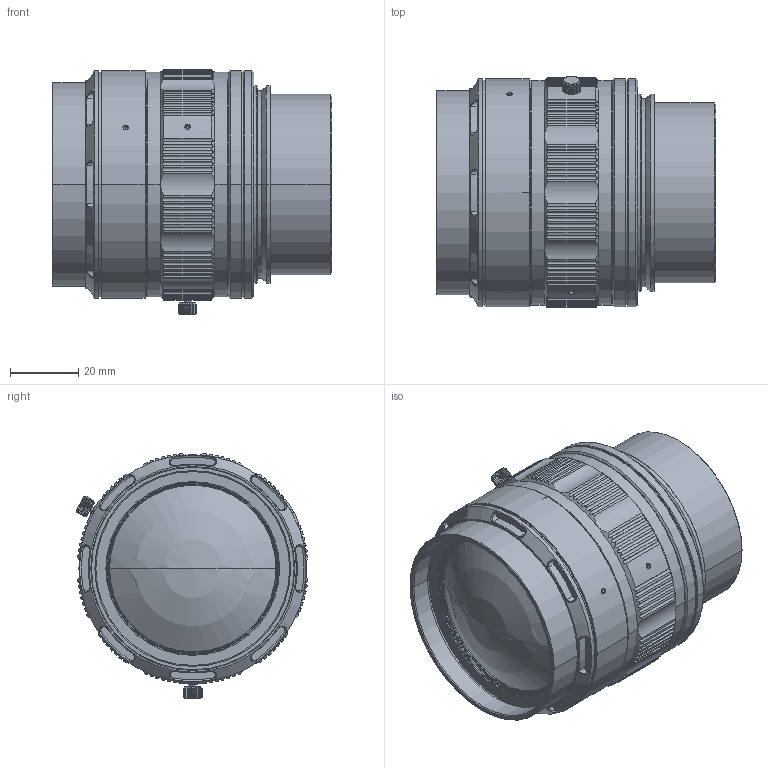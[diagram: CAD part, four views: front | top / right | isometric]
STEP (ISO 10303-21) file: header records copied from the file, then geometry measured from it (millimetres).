
FILE_DESCRIPTION((''),'2;1');
FILE_NAME('PRT0001','2024-06-20T09:42:59',('admin'),(''),'CREO PARAMETRIC BY PTC INC, 2020354','CREO PARAMETRIC BY PTC INC, 2020354','');
FILE_SCHEMA(('AUTOMOTIVE_DESIGN { 1 0 10303 214 1 1 1 1 }'));
Length unit declared in the file: millimetre
Products named in the file (1): PRT0001
Bounding box: 82.29 x 68.15 x 72.1 mm (x, y, z)
Volume: 231508.6 mm3; surface area: 27789.6 mm2
Topology: 1 solids, 2 shells, 736 faces, 1752 edges, 1058 vertices
Faces by surface type: cylinder 328, plane 192, cone 190, bspline 16, torus 6, sphere 4
Entity records: 26276 total; most frequent: CARTESIAN_POINT 9464, ORIENTED_EDGE 3496, DIRECTION 3418, EDGE_CURVE 1748, AXIS2_PLACEMENT_3D 1418, VERTEX_POINT 1058, EDGE_LOOP 780, FACE_OUTER_BOUND 736
